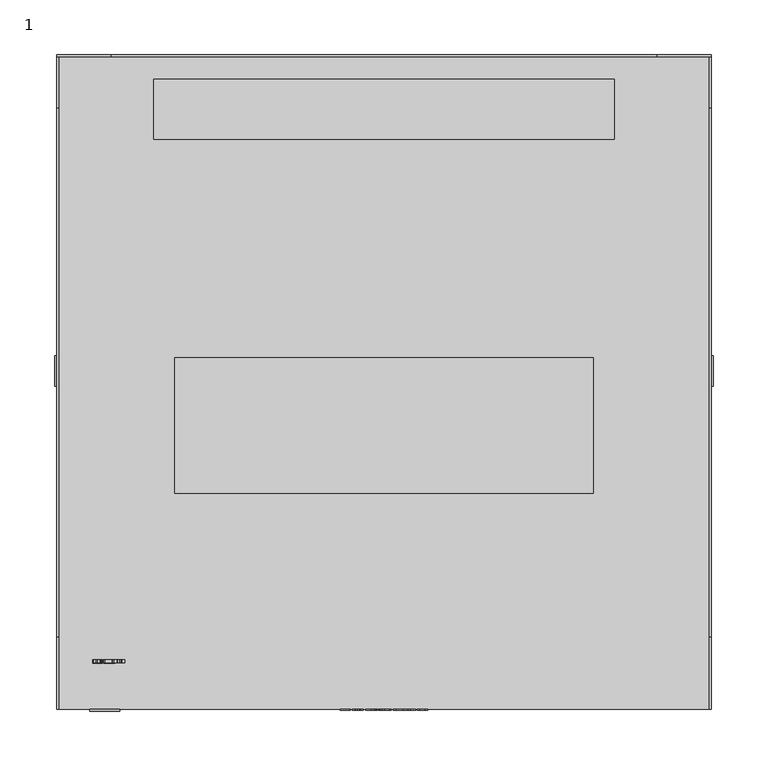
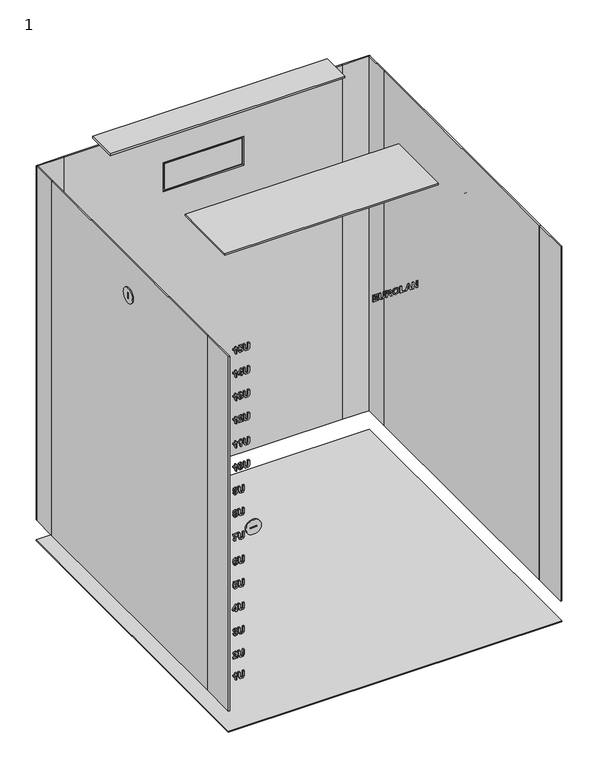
"""IFC4 building model written with IfcOpenShell, lengths in millimetres: proxy geometry, 1 : 15U 600мм металлическая дверь."""

from ifc_helpers import new_model, si_unit, point, frame, frame_2d, origin, origin_with_axes, place, context, project, spatial, polyline, circle_curve, trimmed, segment, composite_curve, outline, extrude, source, transform, mapped, element, save


def proxy_1_086fdbe6(model_context):
    return source(origin(), model_context, "Body", "SweptSolid", [
        extrude(outline(polyline([(728.0, -40.3245382), (728.0, -30.9964522), (730.1376864, -30.9964522), (730.1376864, -37.9925167), (733.2470483, -37.9925167), (733.2470483, -31.5794576), (735.3847347, -31.5794576), (735.3847347, -37.9925167), (738.1054264, -37.9925167), (738.1054264, -31.1907874), (740.2431128, -31.1907874), (740.2431128, -40.3245382), (728.0, -40.3245382)])), frame((0.0, -301.0, 0.0), z_axis=(0.0, 1.0, 0.0), x_axis=(0.0, 0.0, 1.0)), (0.0, 0.0, 1.0), 1.0),
        extrude(outline(polyline([(740.2431128, -29.053101), (733.7207402, -29.053101), (730.6174512, -28.8071456), (729.2601418, -28.1026808), (728.2095176, -26.6482039), (727.8056649, -23.9487675), (728.1761162, -21.5575346), (729.173602, -20.0954664), (730.7085458, -19.3454543), (733.8209443, -19.1420097), (740.2431128, -19.1420097), (740.2431128, -21.4740312), (733.4960402, -21.4740312), (731.4236383, -21.5924541), (730.3714958, -22.2923642), (729.9433512, -24.0216432), (730.3973059, -25.7979877), (731.5982363, -26.6208755), (733.6387551, -26.7210795), (740.2431128, -26.7210795), (740.2431128, -29.053101)])), frame((0.0, -301.0, 0.0), z_axis=(0.0, 1.0, 0.0), x_axis=(0.0, 0.0, 1.0)), (0.0, 0.0, 1.0), 1.0),
        extrude(outline(polyline([(728.0, -16.8099882), (728.0, -14.4779667), (733.0527132, -13.9435451), (732.9251808, -12.6120459), (732.4560437, -11.8164865), (730.7966039, -10.4242575), (728.0, -8.6509495), (728.0, -5.9272213), (730.3745323, -7.424209), (732.3512849, -8.7238252), (733.3715443, -9.9475291), (734.5071902, -7.6625732), (736.7936644, -6.8988969), (738.7339791, -7.4272455), (739.9121358, -8.8361752), (740.2431128, -11.6601074), (740.2431128, -16.8099882), (728.0, -16.8099882)]), holes=[polyline([(735.1903996, -14.4779667), (738.1054264, -14.4779667), (738.1054264, -12.4495939), (738.0659521, -10.5548264), (737.6150339, -9.5770778), (736.6782779, -9.2309184), (735.817434, -9.4935744), (735.3315962, -10.2223312), (735.1903996, -12.5558709), (735.1903996, -14.4779667)])]), frame((0.0, -301.0, 0.0), z_axis=(0.0, 1.0, 0.0), x_axis=(0.0, 0.0, 1.0)), (0.0, 0.0, 1.0), 1.0),
        extrude(outline(polyline([(734.0456442, -4.9555457), (729.4681411, -3.3735363), (727.8056649, 0.8896905), (729.4757323, 5.1225524), (734.106374, 6.7045618), (738.7628257, 5.1104065), (740.4374479, 0.8593256), (739.9546466, -1.7338337), (738.8539203, -3.2869964), (737.1792981, -4.4059416), (734.0456442, -4.9555457)]), holes=[polyline([(734.1306659, -2.6235242), (737.2612832, -1.6579215), (738.2997616, 0.886654), (737.2734292, 3.4190836), (734.1640672, 4.3725403), (730.9985302, 3.3932735), (729.9433512, 0.886654), (731.0061214, -1.6321114), (734.1306659, -2.6235242)])]), frame((0.0, -301.0, 0.0), z_axis=(0.0, 1.0, 0.0), x_axis=(0.0, 0.0, 1.0)), (0.0, 0.0, 1.0), 1.0),
        extrude(outline(polyline([(728.0, 8.647913), (728.0, 17.1986585), (730.1376864, 17.1986585), (730.1376864, 10.9799345), (740.2431128, 10.9799345), (740.2431128, 8.647913), (728.0, 8.647913)])), frame((0.0, -301.0, 0.0), z_axis=(0.0, 1.0, 0.0), x_axis=(0.0, 0.0, 1.0)), (0.0, 0.0, 1.0), 1.0),
        extrude(outline(polyline([(728.0, 29.2474361), (740.2431128, 24.7352175), (740.2431128, 22.2513717), (728.0, 17.7816638), (728.0, 20.2655096), (730.7206917, 21.2128934), (730.7206917, 25.837462), (728.0, 26.7969917), (728.0, 29.2474361)]), holes=[polyline([(732.8583781, 25.0904864), (732.8583781, 21.959869), (737.3280859, 23.51455), (732.8583781, 25.0904864)])]), frame((0.0, -301.0, 0.0), z_axis=(0.0, 1.0, 0.0), x_axis=(0.0, 0.0, 1.0)), (0.0, 0.0, 1.0), 1.0),
        extrude(outline(polyline([(728.0, 30.4134469), (728.0, 32.7454684), (736.1195644, 32.7454684), (728.0, 37.8042546), (728.0, 40.3245382), (740.2431128, 40.3245382), (740.2431128, 37.9925167), (732.002089, 37.9925167), (740.2431128, 32.8578184), (740.2431128, 30.4134469), (728.0, 30.4134469)])), frame((0.0, -301.0, 0.0), z_axis=(0.0, 1.0, 0.0), x_axis=(0.0, 0.0, 1.0)), (0.0, 0.0, 1.0), 1.0),
        extrude(outline(composite_curve([segment(trimmed(circle_curve(frame_2d((9.997621, 643.4611412)), 14.0), [point((-4.002379, 643.4611412))], [point((23.997621, 643.4611412))], False, "CARTESIAN"), True, "CONTINUOUS"), segment(trimmed(circle_curve(frame_2d((9.997621, 643.4611412)), 14.0), [point((23.997621, 643.4611412))], [point((-4.002379, 643.4611412))], False, "CARTESIAN"), True, "CONTINUOUS")], self_intersect=False), holes=[polyline([(11.0, 649.5), (9.0, 649.5), (9.0, 637.5), (11.0, 637.5), (11.0, 649.5)])]), frame((-302.0, 0.0, 0.0), z_axis=(1.0, 0.0, 0.0), x_axis=(0.0, 1.0, 0.0)), (0.0, 0.0, 1.0), 2.0),
        extrude(outline(composite_curve([segment(trimmed(circle_curve(frame_2d((9.997621, 643.4611412)), 14.0), [point((-4.002379, 643.4611412))], [point((23.997621, 643.4611412))], False, "CARTESIAN"), True, "CONTINUOUS"), segment(trimmed(circle_curve(frame_2d((9.997621, 643.4611412)), 14.0), [point((23.997621, 643.4611412))], [point((-4.002379, 643.4611412))], False, "CARTESIAN"), True, "CONTINUOUS")], self_intersect=False), holes=[polyline([(11.0, 649.5), (9.0, 649.5), (9.0, 637.5), (11.0, 637.5), (11.0, 649.5)])]), frame((300.0, 0.0, 0.0), z_axis=(1.0, 0.0, 0.0), x_axis=(0.0, 1.0, 0.0)), (0.0, 0.0, 1.0), 2.0),
        extrude(outline(composite_curve([segment(trimmed(circle_curve(frame_2d((376.0, -256.0)), 13.7647373), [point((376.0, -242.2352627))], [point((376.0, -269.7647373))], False, "CARTESIAN"), True, "CONTINUOUS"), segment(trimmed(circle_curve(frame_2d((376.0, -256.0)), 13.7647373), [point((376.0, -269.7647373))], [point((376.0, -242.2352627))], False, "CARTESIAN"), True, "CONTINUOUS")], self_intersect=False), holes=[polyline([(377.0, -250.0), (375.0, -250.0), (375.0, -262.0), (377.0, -262.0), (377.0, -250.0)])]), frame((0.0, -302.0, 0.0), z_axis=(0.0, 1.0, 0.0), x_axis=(0.0, 0.0, 1.0)), (0.0, 0.0, 1.0), 2.0),
        extrude(outline(polyline([(300.0, 300.0), (300.0, -300.0), (-300.0, -300.0), (-300.0, 300.0), (300.0, 300.0)])), origin_with_axes(), (0.0, 0.0, 1.0), 2.0),
        extrude(outline(polyline([(211.0, 277.5), (211.0, 222.5), (-211.0, 222.5), (-211.0, 277.5), (211.0, 277.5)])), frame((0.0, 0.0, 748.9795778), z_axis=(0.0, 0.0, 1.0), x_axis=(1.0, 0.0, 0.0)), (0.0, 0.0, 1.0), 3.0204222),
        extrude(outline(polyline([(192.0, 22.0), (192.0, -102.0), (-192.0, -102.0), (-192.0, 22.0), (192.0, 22.0)])), frame((0.0, 0.0, 748.9795778), z_axis=(0.0, 0.0, 1.0), x_axis=(1.0, 0.0, 0.0)), (0.0, 0.0, 1.0), 3.0204222),
        extrude(outline(polyline([(-69.5, 300.0), (69.5, 300.0), (69.5, 298.0), (-69.5, 298.0), (-69.5, 300.0)])), frame((0.0, 0.0, 589.0), z_axis=(0.0, 0.0, 1.0), x_axis=(1.0, 0.0, 0.0)), (0.0, 0.0, 1.0), 49.0),
        extrude(outline(polyline([(714.0, -250.0), (40.0, -250.0), (40.0, 250.0), (714.0, 250.0), (714.0, -250.0)]), holes=[polyline([(641.0, -72.5), (641.0, 72.5), (586.0, 72.5), (586.0, -72.5), (641.0, -72.5)])]), frame((0.0, 298.0, 0.0), z_axis=(0.0, 1.0, 0.0), x_axis=(0.0, 0.0, 1.0)), (0.0, 0.0, 1.0), 2.0),
        extrude(outline(polyline([(-300.0, 300.0), (-250.0, 300.0), (-250.0, 298.0), (-300.0, 298.0), (-300.0, 300.0)])), frame((0.0, 0.0, 40.0), z_axis=(0.0, 0.0, 1.0), x_axis=(1.0, 0.0, 0.0)), (0.0, 0.0, 1.0), 674.0),
        extrude(outline(polyline([(250.0, 300.0), (300.0, 300.0), (300.0, 298.0), (250.0, 298.0), (250.0, 300.0)])), frame((0.0, 0.0, 40.0), z_axis=(0.0, 0.0, 1.0), x_axis=(1.0, 0.0, 0.0)), (0.0, 0.0, 1.0), 674.0),
        extrude(outline(polyline([(-298.0, 250.8155315), (-298.0, -233.7095641), (-300.0, -233.7095641), (-300.0, 250.8155315), (-298.0, 250.8155315)])), frame((0.0, 0.0, 40.0), z_axis=(0.0, 0.0, 1.0), x_axis=(1.0, 0.0, 0.0)), (0.0, 0.0, 1.0), 674.0),
        extrude(outline(polyline([(-298.0, -233.7095641), (-298.0, -300.0), (-300.0, -300.0), (-300.0, -233.7095641), (-298.0, -233.7095641)])), frame((0.0, 0.0, 40.0), z_axis=(0.0, 0.0, 1.0), x_axis=(1.0, 0.0, 0.0)), (0.0, 0.0, 1.0), 674.0),
        extrude(outline(polyline([(-298.0, 300.0), (-298.0, 250.8155315), (-300.0, 250.8155315), (-300.0, 300.0), (-298.0, 300.0)])), frame((0.0, 0.0, 40.0), z_axis=(0.0, 0.0, 1.0), x_axis=(1.0, 0.0, 0.0)), (0.0, 0.0, 1.0), 674.0),
        extrude(outline(polyline([(300.0, 250.8155315), (300.0, -233.7095641), (298.0, -233.7095641), (298.0, 250.8155315), (300.0, 250.8155315)])), frame((0.0, 0.0, 40.0), z_axis=(0.0, 0.0, 1.0), x_axis=(1.0, 0.0, 0.0)), (0.0, 0.0, 1.0), 674.0),
        extrude(outline(polyline([(300.0, 300.0), (300.0, 250.8155315), (298.0, 250.8155315), (298.0, 300.0), (300.0, 300.0)])), frame((0.0, 0.0, 40.0), z_axis=(0.0, 0.0, 1.0), x_axis=(1.0, 0.0, 0.0)), (0.0, 0.0, 1.0), 674.0),
        extrude(outline(polyline([(300.0, -233.7095641), (300.0, -300.0), (298.0, -300.0), (298.0, -233.7095641), (300.0, -233.7095641)])), frame((0.0, 0.0, 40.0), z_axis=(0.0, 0.0, 1.0), x_axis=(1.0, 0.0, 0.0)), (0.0, 0.0, 1.0), 674.0),
        extrude(outline(polyline([(680.748317, -260.6030776), (692.9914298, -260.6030776), (692.9914298, -262.4614073), (691.0253049, -263.9037383), (689.8820678, -265.850126), (687.5500463, -265.850126), (689.4994705, -262.9350991), (680.748317, -262.9350991), (680.748317, -260.6030776)])), frame((0.0, -257.6777479, 0.0), z_axis=(0.0, 1.0, 0.0), x_axis=(0.0, 0.0, 1.0)), (0.0, 0.0, 1.0), 3.0),
        extrude(outline(polyline([(684.1947289, -257.1050454), (681.5408399, -255.8676772), (680.5539818, -253.194051), (682.1268817, -249.984485), (684.7473694, -249.1373053), (687.6122943, -250.1545282), (688.716057, -252.6323011), (688.2393287, -254.1353618), (690.4650731, -253.6647064), (690.4650731, -249.7203107), (692.7970946, -249.7203107), (692.7970946, -255.5503644), (685.9073072, -256.9107103), (685.606695, -254.8884104), (686.5783707, -253.1819051), (686.1077153, -251.9445369), (684.6957492, -251.4693268), (683.1911702, -251.9809748), (682.6916682, -253.2304889), (683.1623236, -254.3722077), (684.4406843, -254.967359), (684.1947289, -257.1050454)])), frame((0.0, -257.6777479, 0.0), z_axis=(0.0, 1.0, 0.0), x_axis=(0.0, 0.0, 1.0)), (0.0, 0.0, 1.0), 3.0),
        extrude(outline(polyline([(692.9914298, -247.3882892), (686.4690572, -247.3882892), (683.3657682, -247.1423338), (682.0084588, -246.437869), (680.9578345, -244.9833921), (680.5539818, -242.2839557), (680.9244332, -239.8927228), (681.9219189, -238.4306546), (683.4568627, -237.6806425), (686.5692612, -237.4771979), (692.9914298, -237.4771979), (692.9914298, -239.8092194), (686.2443572, -239.8092194), (684.1719553, -239.9276424), (683.1198128, -240.6275524), (682.6916682, -242.3568314), (683.1456229, -244.1331759), (684.3465532, -244.9560637), (686.387072, -245.0562677), (692.9914298, -245.0562677), (692.9914298, -247.3882892)])), frame((0.0, -257.6777479, 0.0), z_axis=(0.0, 1.0, 0.0), x_axis=(0.0, 0.0, 1.0)), (0.0, 0.0, 1.0), 3.0),
        extrude(outline(polyline([(636.0351924, -260.6030776), (648.2783052, -260.6030776), (648.2783052, -262.4614073), (646.3121803, -263.9037383), (645.1689432, -265.850126), (642.8369217, -265.850126), (644.7863459, -262.9350991), (636.0351924, -262.9350991), (636.0351924, -260.6030776)])), frame((0.0, -257.6777479, 0.0), z_axis=(0.0, 1.0, 0.0), x_axis=(0.0, 0.0, 1.0)), (0.0, 0.0, 1.0), 3.0),
        extrude(outline(polyline([(636.0351924, -252.8296727), (636.0351924, -250.4976512), (638.561549, -250.4976512), (638.561549, -248.9429702), (640.5049002, -248.9429702), (640.5049002, -250.4976512), (648.08397, -250.4976512), (648.08397, -252.5199511), (640.4957907, -257.4937157), (638.561549, -257.4937157), (638.561549, -252.8296727), (636.0351924, -252.8296727)]), holes=[polyline([(640.5049002, -252.8296727), (640.5049002, -255.4349779), (644.4826973, -252.8296727), (640.5049002, -252.8296727)])]), frame((0.0, -257.6777479, 0.0), z_axis=(0.0, 1.0, 0.0), x_axis=(0.0, 0.0, 1.0)), (0.0, 0.0, 1.0), 3.0),
        extrude(outline(polyline([(648.2783052, -247.3882892), (641.7559326, -247.3882892), (638.6526436, -247.1423338), (637.2953342, -246.437869), (636.2447099, -244.9833921), (635.8408572, -242.2839557), (636.2113086, -239.8927228), (637.2087943, -238.4306546), (638.7437381, -237.6806425), (641.8561366, -237.4771979), (648.2783052, -237.4771979), (648.2783052, -239.8092194), (641.5312326, -239.8092194), (639.4588307, -239.9276424), (638.4066882, -240.6275524), (637.9785436, -242.3568314), (638.4324983, -244.1331759), (639.6334286, -244.9560637), (641.6739474, -245.0562677), (648.2783052, -245.0562677), (648.2783052, -247.3882892)])), frame((0.0, -257.6777479, 0.0), z_axis=(0.0, 1.0, 0.0), x_axis=(0.0, 0.0, 1.0)), (0.0, 0.0, 1.0), 3.0),
        extrude(outline(polyline([(591.485825, -260.6030776), (603.7289378, -260.6030776), (603.7289378, -262.4614073), (601.762813, -263.9037383), (600.6195759, -265.850126), (598.2875544, -265.850126), (600.2369786, -262.9350991), (591.485825, -262.9350991), (591.485825, -260.6030776)])), frame((0.0, -257.6777479, 0.0), z_axis=(0.0, 1.0, 0.0), x_axis=(0.0, 0.0, 1.0)), (0.0, 0.0, 1.0), 3.0),
        extrude(outline(polyline([(594.9079451, -257.1050454), (592.2920122, -255.8919691), (591.2914899, -253.2578173), (592.4165081, -250.4566586), (595.1356816, -249.3316405), (597.0137484, -249.9662661), (598.0142706, -251.6606255), (600.5861745, -249.9146458), (602.6266933, -250.7284242), (603.7289378, -253.3458754), (603.3311581, -255.0690813), (602.2395413, -256.2684934), (600.3857664, -256.9107103), (600.0365705, -254.5786888), (601.19499, -254.1611719), (601.5912515, -253.3306929), (601.2496468, -252.5427247), (600.3341462, -252.2466673), (599.253157, -252.6429288), (598.8705597, -253.7922388), (596.9484639, -253.9956834), (597.1215436, -253.0695551), (596.6387423, -252.0720693), (595.3300167, -251.6636619), (593.9438607, -252.1100254), (593.4291763, -253.21227), (593.8785763, -254.2477118), (595.1781924, -254.7730239), (594.9079451, -257.1050454)])), frame((0.0, -257.6777479, 0.0), z_axis=(0.0, 1.0, 0.0), x_axis=(0.0, 0.0, 1.0)), (0.0, 0.0, 1.0), 3.0),
        extrude(outline(polyline([(603.7289378, -247.3882892), (597.2065653, -247.3882892), (594.1032762, -247.1423338), (592.7459669, -246.437869), (591.6953426, -244.9833921), (591.2914899, -242.2839557), (591.6619413, -239.8927228), (592.659427, -238.4306546), (594.1943708, -237.6806425), (597.3067693, -237.4771979), (603.7289378, -237.4771979), (603.7289378, -239.8092194), (596.9818653, -239.8092194), (594.9094634, -239.9276424), (593.8573209, -240.6275524), (593.4291763, -242.3568314), (593.883131, -244.1331759), (595.0840613, -244.9560637), (597.1245801, -245.0562677), (603.7289378, -245.0562677), (603.7289378, -247.3882892)])), frame((0.0, -257.6777479, 0.0), z_axis=(0.0, 1.0, 0.0), x_axis=(0.0, 0.0, 1.0)), (0.0, 0.0, 1.0), 3.0),
        extrude(outline(polyline([(547.6333267, -260.6030776), (559.8764395, -260.6030776), (559.8764395, -262.4614073), (557.9103146, -263.9037383), (556.7670775, -265.850126), (554.435056, -265.850126), (556.3844802, -262.9350991), (547.6333267, -262.9350991), (547.6333267, -260.6030776)])), frame((0.0, -257.6777479, 0.0), z_axis=(0.0, 1.0, 0.0), x_axis=(0.0, 0.0, 1.0)), (0.0, 0.0, 1.0), 3.0),
        extrude(outline(polyline([(549.9653481, -249.3316405), (550.6030103, -253.2395983), (551.9299548, -251.9080991), (553.4603439, -250.4581769), (554.9937695, -249.6018877), (556.5363045, -249.3316405), (558.918428, -250.3184985), (559.8764395, -253.0331173), (559.0216686, -255.6596779), (556.202291, -256.9107103), (555.989737, -254.5786888), (557.3333822, -254.1292888), (557.7387531, -253.0847375), (557.3273092, -252.0417045), (556.1476343, -251.6636619), (554.7447776, -252.1130619), (552.7892804, -253.9167348), (549.9213191, -256.3611063), (547.6333267, -257.1050454), (547.6333267, -249.3316405), (549.9653481, -249.3316405)])), frame((0.0, -257.6777479, 0.0), z_axis=(0.0, 1.0, 0.0), x_axis=(0.0, 0.0, 1.0)), (0.0, 0.0, 1.0), 3.0),
        extrude(outline(polyline([(559.8764395, -247.3882892), (553.3540669, -247.3882892), (550.2507779, -247.1423338), (548.8934685, -246.437869), (547.8428442, -244.9833921), (547.4389915, -242.2839557), (547.8094429, -239.8927228), (548.8069286, -238.4306546), (550.3418725, -237.6806425), (553.4542709, -237.4771979), (559.8764395, -237.4771979), (559.8764395, -239.8092194), (553.1293669, -239.8092194), (551.056965, -239.9276424), (550.0048225, -240.6275524), (549.5766779, -242.3568314), (550.0306326, -244.1331759), (551.2315629, -244.9560637), (553.2720817, -245.0562677), (559.8764395, -245.0562677), (559.8764395, -247.3882892)])), frame((0.0, -257.6777479, 0.0), z_axis=(0.0, 1.0, 0.0), x_axis=(0.0, 0.0, 1.0)), (0.0, 0.0, 1.0), 3.0),
        extrude(outline(polyline([(501.1786301, -260.6030776), (513.4217429, -260.6030776), (513.4217429, -262.4614073), (511.455618, -263.9037383), (510.3123809, -265.850126), (507.9803594, -265.850126), (509.9297836, -262.9350991), (501.1786301, -262.9350991), (501.1786301, -260.6030776)])), frame((0.0, -257.6777479, 0.0), z_axis=(0.0, 1.0, 0.0), x_axis=(0.0, 0.0, 1.0)), (0.0, 0.0, 1.0), 3.0),
        extrude(outline(polyline([(501.1786301, -251.2749917), (513.4217429, -251.2749917), (513.4217429, -253.1333213), (511.455618, -254.5756523), (510.3123809, -256.52204), (507.9803594, -256.52204), (509.9297836, -253.6070132), (501.1786301, -253.6070132), (501.1786301, -251.2749917)])), frame((0.0, -257.6777479, 0.0), z_axis=(0.0, 1.0, 0.0), x_axis=(0.0, 0.0, 1.0)), (0.0, 0.0, 1.0), 3.0),
        extrude(outline(polyline([(513.4217429, -247.3882892), (506.8993703, -247.3882892), (503.7960813, -247.1423338), (502.4387719, -246.437869), (501.3881476, -244.9833921), (500.9842949, -242.2839557), (501.3547463, -239.8927228), (502.352232, -238.4306546), (503.8871758, -237.6806425), (506.9995743, -237.4771979), (513.4217429, -237.4771979), (513.4217429, -239.8092194), (506.6746703, -239.8092194), (504.6022684, -239.9276424), (503.5501259, -240.6275524), (503.1219813, -242.3568314), (503.575936, -244.1331759), (504.7768663, -244.9560637), (506.8173851, -245.0562677), (513.4217429, -245.0562677), (513.4217429, -247.3882892)])), frame((0.0, -257.6777479, 0.0), z_axis=(0.0, 1.0, 0.0), x_axis=(0.0, 0.0, 1.0)), (0.0, 0.0, 1.0), 3.0),
        extrude(outline(polyline([(457.3261317, -260.6030776), (469.5692445, -260.6030776), (469.5692445, -262.4614073), (467.6031196, -263.9037383), (466.4598825, -265.850126), (464.127861, -265.850126), (466.0772852, -262.9350991), (457.3261317, -262.9350991), (457.3261317, -260.6030776)])), frame((0.0, -257.6777479, 0.0), z_axis=(0.0, 1.0, 0.0), x_axis=(0.0, 0.0, 1.0)), (0.0, 0.0, 1.0), 3.0),
        extrude(outline(polyline([(469.5692445, -253.2183429), (468.3242851, -255.9299252), (463.3717759, -257.1050454), (458.4982154, -256.034684), (457.1317966, -253.2183429), (458.3767559, -250.5067607), (463.347484, -249.3316405), (468.3060662, -250.5006877), (469.5692445, -253.2183429)]), holes=[polyline([(467.4315581, -253.2183429), (467.174975, -252.4455572), (466.1531974, -251.8853254), (463.347484, -251.6636619), (460.4476396, -251.9126538), (459.526066, -252.4410024), (459.2694829, -253.2183429), (459.5230295, -253.9911287), (460.5402524, -254.5513604), (463.347484, -254.7730239), (466.2534014, -254.524032), (467.174975, -253.9956834), (467.4315581, -253.2183429)])]), frame((0.0, -257.6777479, 0.0), z_axis=(0.0, 1.0, 0.0), x_axis=(0.0, 0.0, 1.0)), (0.0, 0.0, 1.0), 3.0),
        extrude(outline(polyline([(469.5692445, -247.3882892), (463.0468719, -247.3882892), (459.9435829, -247.1423338), (458.5862735, -246.437869), (457.5356492, -244.9833921), (457.1317966, -242.2839557), (457.5022479, -239.8927228), (458.4997336, -238.4306546), (460.0346775, -237.6806425), (463.1470759, -237.4771979), (469.5692445, -237.4771979), (469.5692445, -239.8092194), (462.8221719, -239.8092194), (460.74977, -239.9276424), (459.6976275, -240.6275524), (459.2694829, -242.3568314), (459.7234376, -244.1331759), (460.924368, -244.9560637), (462.9648868, -245.0562677), (469.5692445, -245.0562677), (469.5692445, -247.3882892)])), frame((0.0, -257.6777479, 0.0), z_axis=(0.0, 1.0, 0.0), x_axis=(0.0, 0.0, 1.0)), (0.0, 0.0, 1.0), 3.0),
        extrude(outline(polyline([(416.2414631, -266.2387962), (413.8062011, -265.1547706), (412.9924228, -262.9381356), (414.4696734, -259.8469925), (419.2870589, -258.6597264), (423.9981674, -259.7953723), (425.4298707, -262.7012897), (424.3169985, -265.3809888), (421.3852709, -266.4331314), (418.550711, -265.4083172), (417.4621306, -262.971537), (418.476317, -260.8065222), (415.7753625, -261.4290019), (415.1301091, -262.6071586), (415.4641226, -263.4922944), (416.490455, -263.9067747), (416.2414631, -266.2387962)]), holes=[polyline([(421.3306142, -260.9917479), (420.0385892, -261.4365931), (419.599817, -262.5312464), (420.0568082, -263.6517099), (421.4885115, -264.1011099), (422.8701127, -263.6881477), (423.2921843, -262.6496694), (422.7774999, -261.4927681), (421.3306142, -260.9917479)])]), frame((0.0, -257.6777479, 0.0), z_axis=(0.0, 1.0, 0.0), x_axis=(0.0, 0.0, 1.0)), (0.0, 0.0, 1.0), 3.0),
        extrude(outline(polyline([(425.4298707, -256.7163752), (418.9074981, -256.7163752), (415.8042091, -256.4704198), (414.4468997, -255.7659549), (413.3962754, -254.311478), (412.9924228, -251.6120417), (413.3628741, -249.2208087), (414.3603599, -247.7587405), (415.8953037, -247.0087284), (419.0077021, -246.8052838), (425.4298707, -246.8052838), (425.4298707, -249.1373053), (418.6827981, -249.1373053), (416.6103962, -249.2557283), (415.5582537, -249.9556384), (415.1301091, -251.6849173), (415.5840638, -253.4612618), (416.7849942, -254.2841496), (418.825513, -254.3843537), (425.4298707, -254.3843537), (425.4298707, -256.7163752)])), frame((0.0, -257.6777479, 0.0), z_axis=(0.0, 1.0, 0.0), x_axis=(0.0, 0.0, 1.0)), (0.0, 0.0, 1.0), 3.0),
        extrude(outline(polyline([(376.4962498, -264.3865396), (375.2254803, -265.9397023), (373.4172527, -266.4331314), (370.6024299, -265.1669166), (369.7339948, -262.4826627), (370.784619, -259.7042777), (373.5174567, -258.6597264), (375.3120201, -259.1865568), (376.4962498, -260.7245371), (377.508918, -259.3444541), (379.0226064, -258.8540615), (381.280234, -259.8227007), (382.1714427, -262.5464289), (381.280234, -265.2777483), (379.0226064, -266.2387962), (377.5499105, -265.7985057), (376.4962498, -264.3865396)]), holes=[polyline([(378.8798915, -263.9067747), (380.000355, -263.5332869), (380.4224266, -262.5312464), (380.0033915, -261.5550161), (378.889001, -261.186083), (377.7320997, -261.5595708), (377.3130646, -262.5555383), (377.727545, -263.5378417), (378.8798915, -263.9067747)]), polyline([(373.6146243, -264.1011099), (374.94916, -263.7169943), (375.5640485, -262.5494654), (375.0220357, -261.4320384), (373.5872959, -260.9917479), (372.0250237, -261.4244472), (371.4830109, -262.5191005), (372.0462791, -263.6486734), (373.6146243, -264.1011099)])]), frame((0.0, -257.6777479, 0.0), z_axis=(0.0, 1.0, 0.0), x_axis=(0.0, 0.0, 1.0)), (0.0, 0.0, 1.0), 3.0),
        extrude(outline(polyline([(382.1714427, -256.7163752), (375.6490701, -256.7163752), (372.5457811, -256.4704198), (371.1884717, -255.7659549), (370.1378475, -254.311478), (369.7339948, -251.6120417), (370.1044461, -249.2208087), (371.1019319, -247.7587405), (372.6368757, -247.0087284), (375.7492742, -246.8052838), (382.1714427, -246.8052838), (382.1714427, -249.1373053), (375.4243701, -249.1373053), (373.3519682, -249.2557283), (372.2998257, -249.9556384), (371.8716811, -251.6849173), (372.3256358, -253.4612618), (373.5265662, -254.2841496), (375.567085, -254.3843537), (382.1714427, -254.3843537), (382.1714427, -256.7163752)])), frame((0.0, -257.6777479, 0.0), z_axis=(0.0, 1.0, 0.0), x_axis=(0.0, 0.0, 1.0)), (0.0, 0.0, 1.0), 3.0),
        extrude(outline(polyline([(334.6450861, -266.4331314), (334.6450861, -261.3257614), (330.0129262, -264.008497), (324.9283299, -265.0727855), (324.9283299, -262.740764), (328.5812229, -262.2154519), (332.440597, -260.6622891), (335.2280915, -258.6597264), (336.9771076, -258.6597264), (336.9771076, -266.4331314), (334.6450861, -266.4331314)])), frame((0.0, -257.6777479, 0.0), z_axis=(0.0, 1.0, 0.0), x_axis=(0.0, 0.0, 1.0)), (0.0, 0.0, 1.0), 3.0),
        extrude(outline(polyline([(337.1714427, -256.7163752), (330.6490701, -256.7163752), (327.5457811, -256.4704198), (326.1884717, -255.7659549), (325.1378475, -254.311478), (324.7339948, -251.6120417), (325.1044461, -249.2208087), (326.1019319, -247.7587405), (327.6368757, -247.0087284), (330.7492742, -246.8052838), (337.1714427, -246.8052838), (337.1714427, -249.1373053), (330.4243701, -249.1373053), (328.3519682, -249.2557283), (327.2998257, -249.9556384), (326.8716811, -251.6849173), (327.3256358, -253.4612618), (328.5265662, -254.2841496), (330.567085, -254.3843537), (337.1714427, -254.3843537), (337.1714427, -256.7163752)])), frame((0.0, -257.6777479, 0.0), z_axis=(0.0, 1.0, 0.0), x_axis=(0.0, 0.0, 1.0)), (0.0, 0.0, 1.0), 3.0),
        extrude(outline(polyline([(287.6111434, -258.8540615), (290.0281866, -259.9654155), (290.8601838, -262.1668681), (289.381415, -265.2473834), (284.5534017, -266.4331314), (279.8559574, -265.2974855), (278.4227359, -262.4006775), (279.5325716, -259.7073142), (282.4764451, -258.6597264), (285.2973409, -259.6845405), (286.390476, -262.1486492), (285.3671801, -264.2802626), (288.0772441, -263.6638558), (288.7224974, -262.4674802), (288.3900022, -261.5990451), (287.3621516, -261.186083), (287.6111434, -258.8540615)]), holes=[polyline([(282.5280654, -264.1011099), (283.8155356, -263.6532281), (284.2527896, -262.5585748), (283.7957984, -261.4396296), (282.3549856, -260.9917479), (280.9794573, -261.4077465), (280.5604222, -262.4462248), (281.0720702, -263.5970531), (282.5280654, -264.1011099)])]), frame((0.0, -257.6777479, 0.0), z_axis=(0.0, 1.0, 0.0), x_axis=(0.0, 0.0, 1.0)), (0.0, 0.0, 1.0), 3.0),
        extrude(outline(polyline([(290.8601838, -256.7163752), (284.3378112, -256.7163752), (281.2345222, -256.4704198), (279.8772128, -255.7659549), (278.8265886, -254.311478), (278.4227359, -251.6120417), (278.7931872, -249.2208087), (279.790673, -247.7587405), (281.3256168, -247.0087284), (284.4380153, -246.8052838), (290.8601838, -246.8052838), (290.8601838, -249.1373053), (284.1131112, -249.1373053), (282.0407093, -249.2557283), (280.9885668, -249.9556384), (280.5604222, -251.6849173), (281.0143769, -253.4612618), (282.2153073, -254.2841496), (284.2558261, -254.3843537), (290.8601838, -254.3843537), (290.8601838, -256.7163752)])), frame((0.0, -257.6777479, 0.0), z_axis=(0.0, 1.0, 0.0), x_axis=(0.0, 0.0, 1.0)), (0.0, 0.0, 1.0), 3.0),
        extrude(outline(polyline([(237.3503584, -266.4331314), (234.6964693, -265.1957632), (233.7096113, -262.522137), (235.2825112, -259.312571), (237.9029989, -258.4653913), (240.7679237, -259.4826142), (241.8716865, -261.960387), (241.3949581, -263.4634477), (243.6207026, -262.9927924), (243.6207026, -259.0483966), (245.9527241, -259.0483966), (245.9527241, -264.8784504), (239.0629366, -266.2387962), (238.7623245, -264.2164963), (239.7340001, -262.509991), (239.2633447, -261.2726229), (237.8513786, -260.7974128), (236.3467996, -261.3090607), (235.8472976, -262.5585748), (236.317953, -263.7002937), (237.5963138, -264.295445), (237.3503584, -266.4331314)])), frame((0.0, -257.6777479, 0.0), z_axis=(0.0, 1.0, 0.0), x_axis=(0.0, 0.0, 1.0)), (0.0, 0.0, 1.0), 3.0),
        extrude(outline(polyline([(246.1470592, -256.7163752), (239.6246866, -256.7163752), (236.5213976, -256.4704198), (235.1640882, -255.7659549), (234.113464, -254.311478), (233.7096113, -251.6120417), (234.0800626, -249.2208087), (235.0775484, -247.7587405), (236.6124922, -247.0087284), (239.7248907, -246.8052838), (246.1470592, -246.8052838), (246.1470592, -249.1373053), (239.3999866, -249.1373053), (237.3275847, -249.2557283), (236.2754422, -249.9556384), (235.8472976, -251.6849173), (236.3012523, -253.4612618), (237.5021827, -254.2841496), (239.5427015, -254.3843537), (246.1470592, -254.3843537), (246.1470592, -256.7163752)])), frame((0.0, -257.6777479, 0.0), z_axis=(0.0, 1.0, 0.0), x_axis=(0.0, 0.0, 1.0)), (0.0, 0.0, 1.0), 3.0),
        extrude(outline(polyline([(189.9283299, -262.1577586), (189.9283299, -259.8257371), (192.4546865, -259.8257371), (192.4546865, -258.2710562), (194.3980377, -258.2710562), (194.3980377, -259.8257371), (201.9771076, -259.8257371), (201.9771076, -261.848037), (194.3889283, -266.8218016), (192.4546865, -266.8218016), (192.4546865, -262.1577586), (189.9283299, -262.1577586)]), holes=[polyline([(194.3980377, -262.1577586), (194.3980377, -264.7630639), (198.3758348, -262.1577586), (194.3980377, -262.1577586)])]), frame((0.0, -257.6777479, 0.0), z_axis=(0.0, 1.0, 0.0), x_axis=(0.0, 0.0, 1.0)), (0.0, 0.0, 1.0), 3.0),
        extrude(outline(polyline([(202.1714427, -256.7163752), (195.6490701, -256.7163752), (192.5457811, -256.4704198), (191.1884717, -255.7659549), (190.1378475, -254.311478), (189.7339948, -251.6120417), (190.1044461, -249.2208087), (191.1019319, -247.7587405), (192.6368757, -247.0087284), (195.7492742, -246.8052838), (202.1714427, -246.8052838), (202.1714427, -249.1373053), (195.4243701, -249.1373053), (193.3519682, -249.2557283), (192.2998257, -249.9556384), (191.8716811, -251.6849173), (192.3256358, -253.4612618), (193.5265662, -254.2841496), (195.567085, -254.3843537), (202.1714427, -254.3843537), (202.1714427, -256.7163752)])), frame((0.0, -257.6777479, 0.0), z_axis=(0.0, 1.0, 0.0), x_axis=(0.0, 0.0, 1.0)), (0.0, 0.0, 1.0), 3.0),
        extrude(outline(polyline([(148.35045, -266.4331314), (145.734517, -265.2200551), (144.7339948, -262.5859032), (145.859013, -259.7847446), (148.5781864, -258.6597264), (150.4562532, -259.294352), (151.4567755, -260.9887114), (154.0286794, -259.2427318), (156.0691982, -260.0565101), (157.1714427, -262.6739613), (156.773663, -264.3971673), (155.6820462, -265.5965794), (153.8282713, -266.2387962), (153.4790753, -263.9067747), (154.6374949, -263.4892579), (155.0337563, -262.6587789), (154.6921516, -261.8708107), (153.776651, -261.5747533), (152.6956619, -261.9710147), (152.3130646, -263.1203248), (150.3909688, -263.3237694), (150.5640485, -262.397641), (150.0812472, -261.4001553), (148.7725216, -260.9917479), (147.3863656, -261.4381114), (146.8716811, -262.5403559), (147.3210811, -263.5757977), (148.6206973, -264.1011099), (148.35045, -266.4331314)])), frame((0.0, -257.6777479, 0.0), z_axis=(0.0, 1.0, 0.0), x_axis=(0.0, 0.0, 1.0)), (0.0, 0.0, 1.0), 3.0),
        extrude(outline(polyline([(157.1714427, -256.7163752), (150.6490701, -256.7163752), (147.5457811, -256.4704198), (146.1884717, -255.7659549), (145.1378475, -254.311478), (144.7339948, -251.6120417), (145.1044461, -249.2208087), (146.1019319, -247.7587405), (147.6368757, -247.0087284), (150.7492742, -246.8052838), (157.1714427, -246.8052838), (157.1714427, -249.1373053), (150.4243701, -249.1373053), (148.3519682, -249.2557283), (147.2998257, -249.9556384), (146.8716811, -251.6849173), (147.3256358, -253.4612618), (148.5265662, -254.2841496), (150.567085, -254.3843537), (157.1714427, -254.3843537), (157.1714427, -256.7163752)])), frame((0.0, -257.6777479, 0.0), z_axis=(0.0, 1.0, 0.0), x_axis=(0.0, 0.0, 1.0)), (0.0, 0.0, 1.0), 3.0),
        extrude(outline(polyline([(103.3014708, -258.8246798), (103.9391329, -262.7326376), (105.2660774, -261.4011384), (106.7964665, -259.9512162), (108.3298921, -259.094927), (109.8724272, -258.8246798), (112.2545507, -259.8115378), (113.2125621, -262.5261566), (112.3577912, -265.1527172), (109.5384137, -266.4037496), (109.3258596, -264.0717281), (110.6695048, -263.6223281), (111.0748758, -262.5777768), (110.6634319, -261.5347438), (109.4837569, -261.1567012), (108.0809003, -261.6061012), (106.1254031, -263.4097741), (103.2574418, -265.8541456), (100.9694493, -266.5980847), (100.9694493, -258.8246798), (103.3014708, -258.8246798)])), frame((0.0, -257.6777479, 0.0), z_axis=(0.0, 1.0, 0.0), x_axis=(0.0, 0.0, 1.0)), (0.0, 0.0, 1.0), 3.0),
        extrude(outline(polyline([(113.2125621, -256.8813285), (106.6901895, -256.8813285), (103.5869005, -256.6353731), (102.2295911, -255.9309083), (101.1789669, -254.4764314), (100.7751142, -251.776995), (101.1455655, -249.3857621), (102.1430513, -247.9236939), (103.6779951, -247.1736818), (106.7903936, -246.9702372), (113.2125621, -246.9702372), (113.2125621, -249.3022587), (106.4654895, -249.3022587), (104.3930876, -249.4206817), (103.3409451, -250.1205917), (102.9128006, -251.8498707), (103.3667553, -253.6262152), (104.5676856, -254.449103), (106.6082044, -254.549307), (113.2125621, -254.549307), (113.2125621, -256.8813285)])), frame((0.0, -257.6777479, 0.0), z_axis=(0.0, 1.0, 0.0), x_axis=(0.0, 0.0, 1.0)), (0.0, 0.0, 1.0), 3.0),
        extrude(outline(polyline([(59.9283299, -260.6030776), (72.1714427, -260.6030776), (72.1714427, -262.4614073), (70.2053178, -263.9037383), (69.0620807, -265.850126), (66.7300592, -265.850126), (68.6794834, -262.9350991), (59.9283299, -262.9350991), (59.9283299, -260.6030776)])), frame((0.0, -257.6777479, 0.0), z_axis=(0.0, 1.0, 0.0), x_axis=(0.0, 0.0, 1.0)), (0.0, 0.0, 1.0), 3.0),
        extrude(outline(polyline([(72.1714427, -256.7163752), (65.6490701, -256.7163752), (62.5457811, -256.4704198), (61.1884717, -255.7659549), (60.1378475, -254.311478), (59.7339948, -251.6120417), (60.1044461, -249.2208087), (61.1019319, -247.7587405), (62.6368757, -247.0087284), (65.7492742, -246.8052838), (72.1714427, -246.8052838), (72.1714427, -249.1373053), (65.4243701, -249.1373053), (63.3519682, -249.2557283), (62.2998257, -249.9556384), (61.8716811, -251.6849173), (62.3256358, -253.4612618), (63.5265662, -254.2841496), (65.567085, -254.3843537), (72.1714427, -254.3843537), (72.1714427, -256.7163752)])), frame((0.0, -257.6777479, 0.0), z_axis=(0.0, 1.0, 0.0), x_axis=(0.0, 0.0, 1.0)), (0.0, 0.0, 1.0), 3.0),
    ])


if __name__ == "__main__":
    model = new_model("IFC4")
    model_context = context("Model", 3, world=origin())
    ifc_project = project(units=[si_unit("LENGTHUNIT", "METRE", prefix="MILLI")], contexts=[model_context])
    site = spatial("IfcSite", under=ifc_project)
    building = spatial("IfcBuilding", under=site)
    placement = place(None, origin())
    proxy_1_shape = proxy_1_086fdbe6(model_context)
    element("IfcBuildingElementProxy", 1, Name="1 : 15U 600мм металлическая дверь", ObjectType="1 : 15U 600мм металлическая дверь", at=placement, inside=building, context=model_context, shape_type="MappedRepresentation", body=[
        mapped(proxy_1_shape, transform((0.0, 0.0, 0.0), x_axis=(1.0, 0.0, 0.0), y_axis=(0.0, 1.0, 0.0), z_axis=(0.0, 0.0, 1.0))),
    ])
    save(model, "model.ifc")
